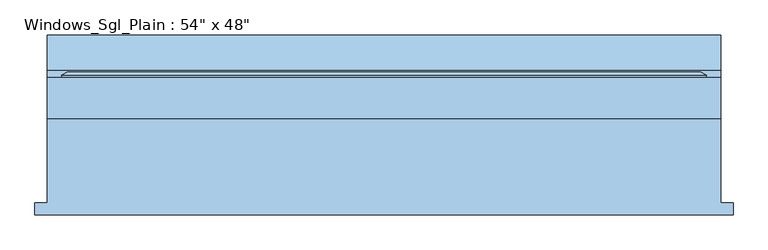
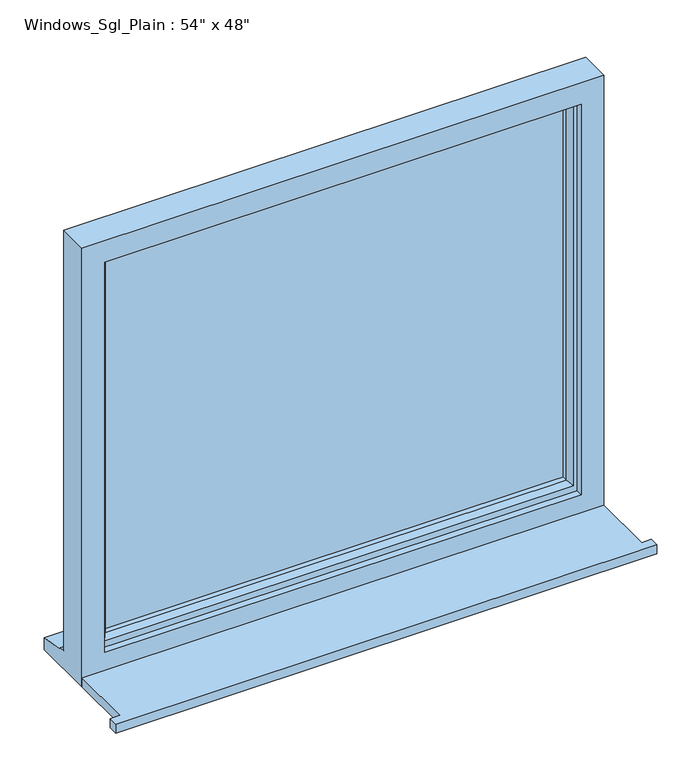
"""IFC4 building model written with IfcOpenShell, lengths in millimetres: window geometry."""

import ifcopenshell
import ifcopenshell.guid

model = None  # the IFC model being written
_history = None  # IfcOwnerHistory: only IFC2X3 demands one
_inside = {}  # id of a spatial element -> (the spatial element, [elements in it])
_under = {}  # id of a project, library or spatial element -> (it, [spatial elements below it])
_declared = {}  # id of a project -> (the project, [libraries it declares])
_typed = {}  # id of a type object -> (the type object, [elements of that type])
_made_of = {}  # id of a material, layer set ... -> (it, [elements and type objects made of it])


def new_model(schema):
    """Start an empty IFC model of exactly this schema.

    Asked for "IFC4X3", IfcOpenShell would pick the latest addendum, in which some entities
    have other attributes; the version numbers below select the first issue.
    IFC2X3 requires an IfcOwnerHistory on every rooted entity: one is made here for all.
    """
    global model, _history
    if schema == "IFC4X3":
        model = ifcopenshell.file(schema_version=(4, 3, 0, 0))
    else:
        model = ifcopenshell.file(schema=schema)
    _inside.clear()
    _under.clear()
    _declared.clear()
    _typed.clear()
    _made_of.clear()
    _history = None
    if model.schema == "IFC2X3":
        org = make("IfcOrganization", Name="unknown")
        user = make(
            "IfcPersonAndOrganization",
            ThePerson=make("IfcPerson", FamilyName="unknown"),
            TheOrganization=org,
        )
        app = make(
            "IfcApplication",
            ApplicationDeveloper=org,
            Version="unknown",
            ApplicationFullName="unknown",
            ApplicationIdentifier="unknown",
        )
        _history = make(
            "IfcOwnerHistory",
            OwningUser=user,
            OwningApplication=app,
            ChangeAction="ADDED",
            CreationDate=0,
        )
    return model


def make(cls, **values):
    """One entity of the class cls with the attributes given. An attribute that is None is left unset."""
    return model.create_entity(
        cls, **{name: value for name, value in values.items() if value is not None}
    )


def rooted(cls, **values):
    """An entity with a GlobalId (a new one), such as an element, a storey or a relation."""
    return make(cls, GlobalId=ifcopenshell.guid.new(), OwnerHistory=_history, **values)


def si_unit(unit_type, name, prefix=None):
    """IfcSIUnit, for example si_unit("LENGTHUNIT", "METRE", prefix="MILLI")."""
    return make("IfcSIUnit", UnitType=unit_type, Prefix=prefix, Name=name)


def assignment(units):
    """IfcUnitAssignment: the units of a project."""
    return None if units is None else make("IfcUnitAssignment", Units=units)


def point(xyz):
    """IfcCartesianPoint."""
    return None if xyz is None else make("IfcCartesianPoint", Coordinates=xyz)


def direction(xyz):
    """IfcDirection."""
    return None if xyz is None else make("IfcDirection", DirectionRatios=xyz)


def frame(location, z_axis=None, x_axis=None):
    """IfcAxis2Placement3D, a coordinate frame: its origin and axes. An axis left out is left unset."""
    return make(
        "IfcAxis2Placement3D",
        Location=point(location),
        Axis=direction(z_axis),
        RefDirection=direction(x_axis),
    )


def origin():
    """The frame at (0, 0, 0) with its axes left unset."""
    return frame((0.0, 0.0, 0.0))


def place(relative_to, where):
    """IfcLocalPlacement: puts the frame where relative to a parent placement (None: the world)."""
    return make(
        "IfcLocalPlacement", PlacementRelTo=relative_to, RelativePlacement=where
    )


def context(
    kind, dimensions, precision=None, world=None, true_north=None, identifier=None
):
    """IfcGeometricRepresentationContext, for example the 3D "Model" context."""
    return make(
        "IfcGeometricRepresentationContext",
        ContextIdentifier=identifier,
        ContextType=kind,
        CoordinateSpaceDimension=dimensions,
        Precision=precision,
        WorldCoordinateSystem=world,
        TrueNorth=true_north,
    )


def project(units=None, contexts=None):
    """IfcProject with its units and contexts."""
    return rooted(
        "IfcProject",
        Name="project",
        RepresentationContexts=contexts,
        UnitsInContext=assignment(units),
    )


def spatial(cls, under=None, at=None, **own):
    """A site, building, storey or space (cls), placed at a placement, below another one or the project."""
    s = rooted(cls, ObjectPlacement=at, **own)
    if under is not None:
        _under.setdefault(under.id(), (under, []))[1].append(s)
    return s


def polyline(points):
    """IfcPolyline through the points."""
    return make("IfcPolyline", Points=[point(p) for p in points])


def outline(outer, holes=None, kind="AREA"):
    """IfcArbitraryClosedProfileDef: a profile drawn as a closed curve; with holes, ...WithVoids."""
    if holes is None:
        return make("IfcArbitraryClosedProfileDef", ProfileType=kind, OuterCurve=outer)
    return make(
        "IfcArbitraryProfileDefWithVoids",
        ProfileType=kind,
        OuterCurve=outer,
        InnerCurves=holes,
    )


def extrude(swept, where, along, depth):
    """IfcExtrudedAreaSolid: the profile swept, set in the frame where, extruded along a direction by depth."""
    return make(
        "IfcExtrudedAreaSolid",
        SweptArea=swept,
        Position=where,
        ExtrudedDirection=direction(along),
        Depth=depth,
    )


def faces_of(points, faces, orient=None, outer=None):
    """IfcFace entities. A face is a list of loops; a loop is a list of indices into points, from 0.

    orient and outer hold one flag for each loop. By default every Orientation is true, the
    first loop of a face is its IfcFaceOuterBound and the others are IfcFaceBound.
    """
    made = []
    for i, loops in enumerate(faces):
        bounds = []
        for j, loop in enumerate(loops):
            is_outer = j == 0 if outer is None else outer[i][j]
            bounds.append(
                make(
                    "IfcFaceOuterBound" if is_outer else "IfcFaceBound",
                    Bound=make("IfcPolyLoop", Polygon=[points[k] for k in loop]),
                    Orientation=True if orient is None else orient[i][j],
                )
            )
        made.append(make("IfcFace", Bounds=bounds))
    return made


def faceted_brep(points, faces, orient=None, outer=None, voids=None):
    """IfcFacetedBrep: a solid bounded by flat faces; with voids (closed shells), ...WithVoids."""
    shared = [point(p) for p in points]
    hull = make("IfcClosedShell", CfsFaces=faces_of(shared, faces, orient, outer))
    if voids is None:
        return make("IfcFacetedBrep", Outer=hull)
    return make(
        "IfcFacetedBrepWithVoids",
        Outer=hull,
        Voids=[
            make(cls, CfsFaces=faces_of(shared, fs, o, b)) for cls, fs, o, b in voids
        ],
    )


def shape(context_of_items, identifier, shape_type, items):
    """IfcShapeRepresentation: the items that make up one representation, for example the "Body"."""
    return make(
        "IfcShapeRepresentation",
        ContextOfItems=context_of_items,
        RepresentationIdentifier=identifier,
        RepresentationType=shape_type,
        Items=items,
    )


def source(mapping_origin, context_of_items, identifier, shape_type, items):
    """IfcRepresentationMap: a shape defined once, which mapped items show again and again."""
    return make(
        "IfcRepresentationMap",
        MappingOrigin=mapping_origin,
        MappedRepresentation=shape(context_of_items, identifier, shape_type, items),
    )


def transform(
    local_origin,
    x_axis=None,
    y_axis=None,
    z_axis=None,
    scale=None,
    scale2=None,
    scale3=None,
    uniform=True,
):
    """IfcCartesianTransformationOperator3D, or its non-uniform kind. x_axis, y_axis, z_axis: its Axis1, 2, 3."""
    if uniform:
        return make(
            "IfcCartesianTransformationOperator3D",
            Axis1=direction(x_axis),
            Axis2=direction(y_axis),
            LocalOrigin=point(local_origin),
            Scale=scale,
            Axis3=direction(z_axis),
        )
    return make(
        "IfcCartesianTransformationOperator3DnonUniform",
        Axis1=direction(x_axis),
        Axis2=direction(y_axis),
        LocalOrigin=point(local_origin),
        Scale=scale,
        Axis3=direction(z_axis),
        Scale2=scale2,
        Scale3=scale3,
    )


def mapped(mapping_source, mapping_target):
    """IfcMappedItem: shows the shape of a source again, moved by a transform."""
    return make(
        "IfcMappedItem", MappingSource=mapping_source, MappingTarget=mapping_target
    )


def made_of(thing, what):
    """Note that an element or type object is made of a material, layer set ...; save() writes the relation."""
    if what is not None:
        _made_of.setdefault(what.id(), (what, []))[1].append(thing)
    return thing


def element(
    cls,
    number,
    at=None,
    inside=None,
    cuts=None,
    type_object=None,
    material=None,
    context=None,
    identifier="Body",
    shape_type=None,
    held_by="IfcProductDefinitionShape",
    body=None,
    shapes=None,
    **own,
):
    """One element of the class cls, such as IfcWall. Its Tag is "e" and its number.

    at: its placement. inside: the storey or other place that contains it. cuts: it is an
    opening in that element (IfcRelVoidsElement). A single representation is given by context,
    identifier, shape_type and body (its items); several are given by shapes. held_by: the class
    of the entity that holds the representations. save() writes the other relations.
    """
    e = rooted(cls, Tag="e%d" % number, ObjectPlacement=at, **own)
    if body is not None:
        shapes = [shape(context, identifier, shape_type, body)]
    if shapes is not None:
        e.Representation = make(held_by, Representations=shapes)
    if inside is not None:
        _inside.setdefault(inside.id(), (inside, []))[1].append(e)
    if cuts is not None:
        rooted(
            "IfcRelVoidsElement", RelatingBuildingElement=cuts, RelatedOpeningElement=e
        )
    if type_object is not None:
        _typed.setdefault(type_object.id(), (type_object, []))[1].append(e)
    return made_of(e, material)


def aggregate(whole, parts):
    """IfcRelAggregates: a whole, such as a stair, and the parts it consists of."""
    return rooted("IfcRelAggregates", RelatingObject=whole, RelatedObjects=parts)


def save(model, path):
    """Write the relations noted so far, then the file.

    IfcRelAggregates (storeys below a building ...), IfcRelContainedInSpatialStructure (elements
    in a storey), IfcRelDefinesByType, IfcRelAssociatesMaterial and IfcRelDeclares: one each for
    every whole, place, type object, material and project.
    """
    for whole, parts in _under.values():
        aggregate(whole, parts)
    for where, things in _inside.values():
        rooted(
            "IfcRelContainedInSpatialStructure",
            RelatedElements=things,
            RelatingStructure=where,
        )
    for kind, things in _typed.values():
        rooted("IfcRelDefinesByType", RelatedObjects=things, RelatingType=kind)
    for what, things in _made_of.values():
        rooted("IfcRelAssociatesMaterial", RelatedObjects=things, RelatingMaterial=what)
    for by, libraries in _declared.values():
        rooted("IfcRelDeclares", RelatingContext=by, RelatedDefinitions=libraries)
    model.write(path)


def window_0aa7a228(model_context):
    return source(origin(), model_context, "Body", "SolidModel", [
        extrude(outline(polyline([(-710.8, -168.9434322), (-710.8, -143.9434322), (-685.8, -143.9434322), (-685.8, 27.8565678), (685.8, 27.8565678), (685.8, -143.9434322), (710.8, -143.9434322), (710.8, -168.9434322), (-710.8, -168.9434322)])), frame((0.0, 0.0, 890.8), z_axis=(0.0, 0.0, 1.0), x_axis=(1.0, 0.0, 0.0)), (0.0, 0.0, 1.0), 25.0),
        faceted_brep([(-685.8, 27.8565678, 890.8), (685.8, 27.8565678, 890.8), (685.8, 27.8565678, 2110.0), (-685.8, 27.8565678, 2110.0), (-625.8, 27.8565678, 2050.0), (625.8, 27.8565678, 2050.0), (625.8, 27.8565678, 965.8), (-625.8, 27.8565678, 965.8), (-685.8, 110.8565678, 2110.0), (-685.8, 110.8565678, 941.8), (-685.8, 125.8565678, 940.48767), (-685.8, 125.8565678, 935.5449676), (-685.8, 198.3565678, 924.6088847), (-685.8, 198.3565678, 890.8), (685.8, 110.8565678, 2110.0), (685.8, 110.8565678, 941.8), (-645.8, 110.8565678, 2070.0), (-645.8, 110.8565678, 953.8), (645.8, 110.8565678, 953.8), (645.8, 110.8565678, 2070.0), (-645.8, 45.8565678, 2070.0), (-645.8, 45.8565678, 953.8), (645.8, 45.8565678, 2070.0), (645.8, 45.8565678, 953.8), (-625.8, 45.8565678, 2050.0), (-625.8, 45.8565678, 965.8), (625.8, 45.8565678, 965.8), (625.8, 45.8565678, 2050.0), (685.8, 198.3565678, 890.8), (685.8, 198.3565678, 924.6088847), (685.8, 125.8565678, 935.5449676), (685.8, 125.8565678, 940.48767)], [[[0, 1, 2, 3], [4, 5, 6, 7]], [[0, 3, 8, 9, 10, 11, 12, 13]], [[9, 8, 14, 15], [16, 17, 18, 19]], [[17, 16, 20, 21]], [[20, 22, 23, 21], [24, 25, 26, 27]], [[24, 4, 7, 25]], [[3, 2, 14, 8]], [[16, 19, 22, 20]], [[5, 4, 24, 27]], [[15, 14, 2, 1, 28, 29, 30, 31]], [[19, 18, 23, 22]], [[5, 27, 26, 6]], [[28, 1, 0, 13]], [[29, 28, 13, 12]], [[30, 29, 12, 11]], [[31, 30, 11, 10]], [[15, 31, 10, 9]], [[21, 23, 18, 17]], [[7, 6, 26, 25]]]),
        extrude(outline(polyline([(615.8, 74.8565678), (-615.8, 74.8565678), (-615.8, 98.8565678), (615.8, 98.8565678), (615.8, 74.8565678)])), frame((0.0, 0.0, 983.8), z_axis=(0.0, 0.0, 1.0), x_axis=(1.0, 0.0, 0.0)), (0.0, 0.0, 1.0), 1056.2),
        faceted_brep([(-655.8, 110.8565678, 2080.0), (-655.8, 116.6300705, 2080.0), (-655.8, 116.6300705, 943.8), (-655.8, 110.8565678, 943.8), (-645.8, 45.8565678, 2070.0), (-645.8, 110.8565678, 2070.0), (-645.8, 110.8565678, 953.8), (-645.8, 45.8565678, 953.8), (-605.8, 60.3494677, 2030.0), (-615.9480377, 45.8565678, 2040.1480377), (-615.9480377, 45.8565678, 983.6519623), (-605.8, 60.3494677, 993.8), (-605.8, 74.8565678, 2030.0), (-605.8, 74.8565678, 993.8), (-615.8, 98.8565678, 2040.0), (-615.8, 74.8565678, 2040.0), (-615.8, 74.8565678, 983.8), (-615.8, 98.8565678, 983.8), (-605.8, 116.6300705, 2030.0), (-605.8, 98.8565678, 2030.0), (-605.8, 98.8565678, 993.8), (-605.8, 116.6300705, 993.8), (-623.2457548, 122.4035732, 2047.4457548), (-623.2457548, 122.4035732, 976.3542452), (-645.0153903, 122.4035732, 2069.2153903), (-645.0153903, 122.4035732, 954.5846097), (655.8, 116.6300705, 943.8), (655.8, 110.8565678, 943.8), (645.8, 110.8565678, 953.8), (645.8, 45.8565678, 953.8), (615.9480377, 45.8565678, 983.6519623), (605.8, 60.3494677, 993.8), (605.8, 74.8565678, 993.8), (615.8, 74.8565678, 983.8), (615.8, 98.8565678, 983.8), (605.8, 98.8565678, 993.8), (605.8, 116.6300705, 993.8), (623.2457548, 122.4035732, 976.3542452), (645.0153903, 122.4035732, 954.5846097), (655.8, 116.6300705, 2080.0), (655.8, 110.8565678, 2080.0), (645.8, 110.8565678, 2070.0), (645.8, 45.8565678, 2070.0), (615.9480377, 45.8565678, 2040.1480377), (605.8, 60.3494677, 2030.0), (605.8, 74.8565678, 2030.0), (615.8, 74.8565678, 2040.0), (615.8, 98.8565678, 2040.0), (605.8, 98.8565678, 2030.0), (605.8, 116.6300705, 2030.0), (623.2457548, 122.4035732, 2047.4457548), (645.0153903, 122.4035732, 2069.2153903)], [[[0, 1, 2, 3]], [[4, 5, 6, 7]], [[8, 9, 10, 11]], [[12, 8, 11, 13]], [[14, 15, 16, 17]], [[18, 19, 20, 21]], [[22, 18, 21, 23]], [[1, 24, 25, 2]], [[3, 2, 26, 27]], [[7, 6, 28, 29]], [[11, 10, 30, 31]], [[13, 11, 31, 32]], [[17, 16, 33, 34]], [[21, 20, 35, 36]], [[23, 21, 36, 37]], [[2, 25, 38, 26]], [[27, 26, 39, 40]], [[29, 28, 41, 42]], [[31, 30, 43, 44]], [[32, 31, 44, 45]], [[34, 33, 46, 47]], [[36, 35, 48, 49]], [[37, 36, 49, 50]], [[26, 38, 51, 39]], [[40, 39, 1, 0]], [[3, 27, 40, 0], [5, 41, 28, 6]], [[42, 41, 5, 4]], [[7, 29, 42, 4], [9, 43, 30, 10]], [[44, 43, 9, 8]], [[45, 44, 8, 12]], [[15, 46, 33, 16], [13, 32, 45, 12]], [[47, 46, 15, 14]], [[17, 34, 47, 14], [19, 48, 35, 20]], [[49, 48, 19, 18]], [[50, 49, 18, 22]], [[24, 51, 38, 25], [23, 37, 50, 22]], [[39, 51, 24, 1]]]),
    ])


if __name__ == "__main__":
    model = new_model("IFC4")
    model_context = context("Model", 3, world=origin())
    ifc_project = project(units=[si_unit("LENGTHUNIT", "METRE", prefix="MILLI")], contexts=[model_context])
    site = spatial("IfcSite", under=ifc_project)
    building = spatial("IfcBuilding", under=site)
    placement = place(None, origin())
    window_shape = window_0aa7a228(model_context)
    element("IfcWindow", 1, ObjectType="Windows_Sgl_Plain : 54\" x 48\"", at=placement, inside=building, context=model_context, shape_type="MappedRepresentation", body=[
        mapped(window_shape, transform((0.0, 0.0, 0.0), x_axis=(1.0, 0.0, 0.0), y_axis=(0.0, 1.0, 0.0), z_axis=(0.0, 0.0, 1.0))),
    ])
    save(model, "model.ifc")
